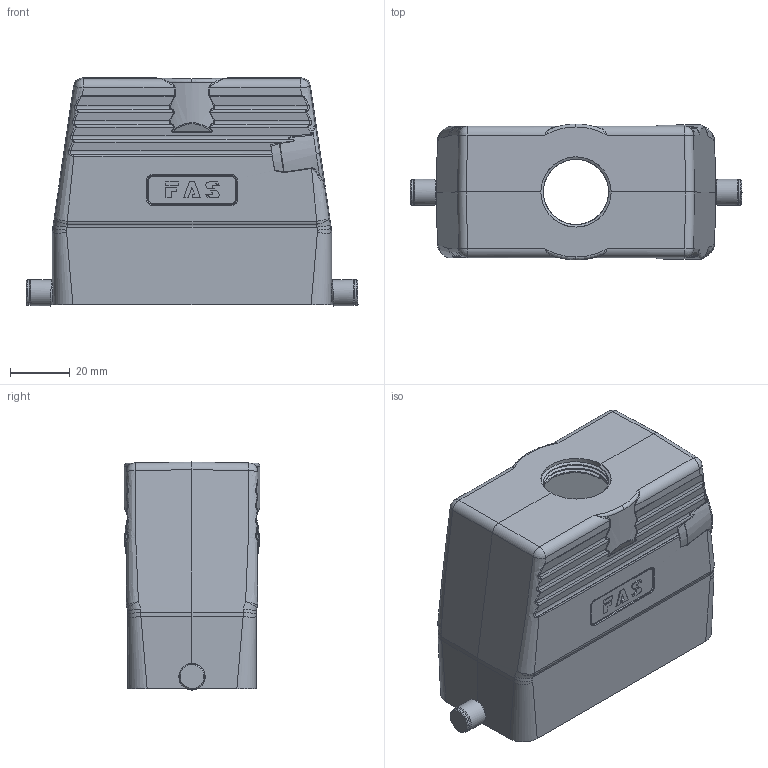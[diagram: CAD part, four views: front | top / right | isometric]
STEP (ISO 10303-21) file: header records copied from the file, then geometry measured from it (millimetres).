
FILE_DESCRIPTION (( 'STEP AP203' ), '1' );
FILE_NAME ('H16B-TGH-RO-M25&32&40.STEP', '2023-06-07T09:00:38', ( '' ), ( '' ), 'SwSTEP 2.0', 'SolidWorks 2016', '' );
FILE_SCHEMA (( 'CONFIG_CONTROL_DESIGN' ));
Length unit declared in the file: millimetre
Products named in the file (1): H16B-TGH-RO-M25&32&40
Bounding box: 111.17 x 45.5 x 76.35 mm (x, y, z)
Volume: 92496.6 mm3; surface area: 43544.5 mm2
Topology: 1 solids, 1 shells, 632 faces, 1622 edges, 1019 vertices
Faces by surface type: bspline 201, plane 186, cylinder 180, cone 35, torus 18, sphere 12
Full cylindrical faces by diameter (mm): 2 x2, 3 x2, 4.8 x2, 5 x2, 8.5 x2, 8.8 x2, 23.5 x3
Entity records: 33505 total; most frequent: CARTESIAN_POINT 21106, ORIENTED_EDGE 3104, DIRECTION 1671, EDGE_CURVE 1552, VERTEX_POINT 994, B_SPLINE_CURVE_WITH_KNOTS 805, EDGE_LOOP 696, FACE_OUTER_BOUND 638
